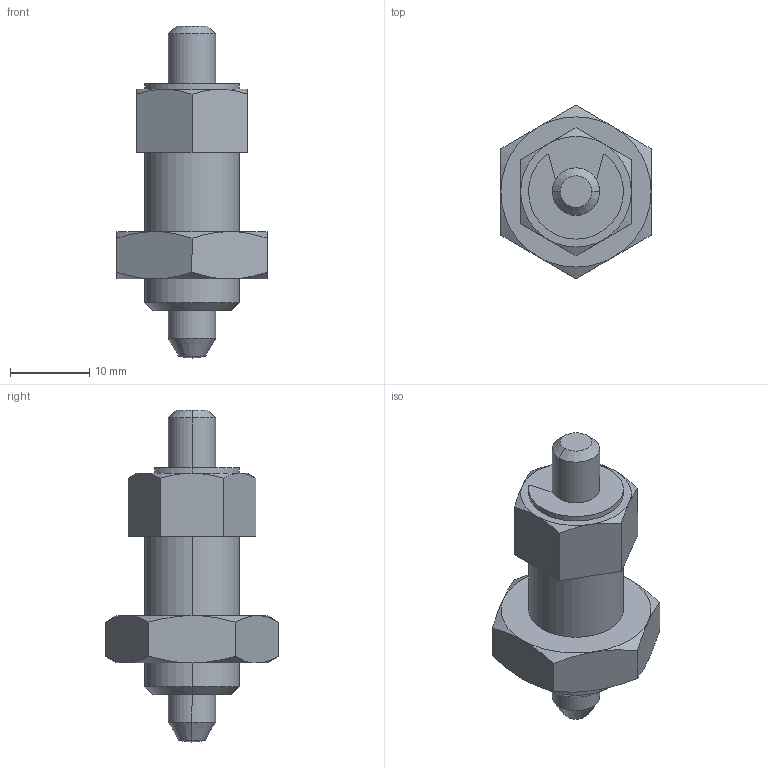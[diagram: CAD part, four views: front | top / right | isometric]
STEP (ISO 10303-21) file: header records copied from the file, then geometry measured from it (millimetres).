
FILE_DESCRIPTION (( 'STEP AP203' ), '1' );
FILE_NAME ('ndx12wn-sus.STEP', '2021-10-26T04:17:27', ( '' ), ( '' ), 'SwSTEP 2.0', 'SolidWorks 2020', '' );
FILE_SCHEMA (( 'CONFIG_CONTROL_DESIGN' ));
Length unit declared in the file: millimetre
Products named in the file (3): ndx12wn-sus_02; ndx12wn-sus; ndx12wn-sus_01
Assembly tree (2 placements, depth 2):
  ndx12wn-sus
    ndx12wn-sus_01
    ndx12wn-sus_02
Bounding box: 19 x 21.94 x 42 mm (x, y, z)
Volume: 5183.6 mm3; surface area: 2681.2 mm2
Topology: 2 solids, 2 shells, 60 faces, 136 edges, 83 vertices
Faces by surface type: cone 24, plane 21, cylinder 13, sphere 2
Entity records: 2113 total; most frequent: CARTESIAN_POINT 488, DIRECTION 286, ORIENTED_EDGE 272, EDGE_CURVE 136, AXIS2_PLACEMENT_3D 121, VERTEX_POINT 83, EDGE_LOOP 65, ADVANCED_FACE 60
